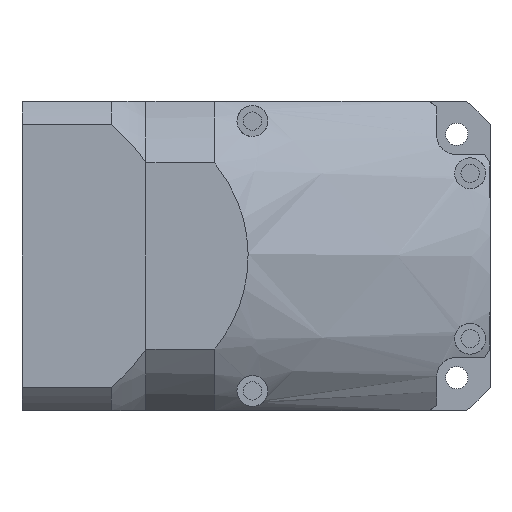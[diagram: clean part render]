
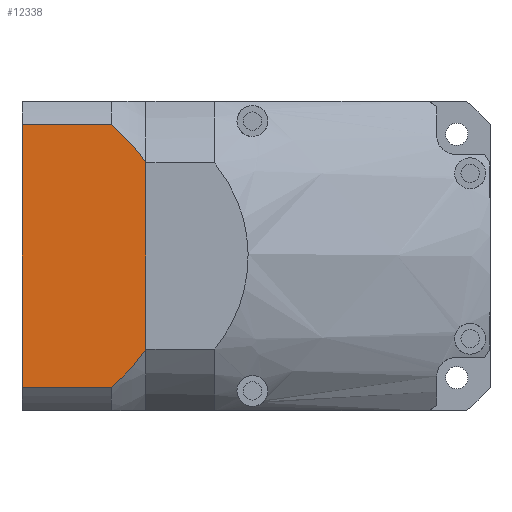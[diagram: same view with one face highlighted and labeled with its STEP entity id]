
A CAD part, front view. The second image highlights one B-rep face of the part: STEP entity #12338.
In plain terms, the highlighted planar face has unit normal (0, -1, 0).
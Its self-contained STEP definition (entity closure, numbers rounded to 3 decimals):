
#347 = LINE ( 'NONE', #10480, #2969 ) ;
#420 = CARTESIAN_POINT ( 'NONE',  ( -38.158, -45., 0. ) ) ;
#426 = CARTESIAN_POINT ( 'NONE',  ( 38.158, -45., -36. ) ) ;
#445 = CARTESIAN_POINT ( 'NONE',  ( 38.158, -45., -10. ) ) ;
#743 = VECTOR ( 'NONE', #4300, 1000. ) ;
#818 = EDGE_CURVE ( 'NONE', #1977, #7348, #347, .T. ) ;
#991 = EDGE_CURVE ( 'NONE', #7982, #4308, #9306, .T. ) ;
#1311 = CARTESIAN_POINT ( 'NONE',  ( -45., -45., -36. ) ) ;
#1575 = CARTESIAN_POINT ( 'NONE',  ( 38.158, -45., 0. ) ) ;
#1598 = VERTEX_POINT ( 'NONE', #9378 ) ;
#1977 = VERTEX_POINT ( 'NONE', #4650 ) ;
#2080 = B_SPLINE_CURVE_WITH_KNOTS ( 'NONE', 3,
 ( #10264, #3349, #5345, #12208, #6330, #445 ),
 .UNSPECIFIED., .F., .F.,
 ( 4, 2, 4 ),
 ( 0., 0.5, 1. ),
 .UNSPECIFIED. ) ;
#2188 = CARTESIAN_POINT ( 'NONE',  ( -38.158, -45., -36. ) ) ;
#2355 = ORIENTED_EDGE ( 'NONE', *, *, #818, .F. ) ;
#2550 = CARTESIAN_POINT ( 'NONE',  ( -45., -45., -36. ) ) ;
#2599 = DIRECTION ( 'NONE',  ( 0., 0., -1. ) ) ;
#2673 = EDGE_CURVE ( 'NONE', #1598, #1977, #10487, .T. ) ;
#2690 = ORIENTED_EDGE ( 'NONE', *, *, #4261, .F. ) ;
#2969 = VECTOR ( 'NONE', #9415, 1000. ) ;
#3347 = CARTESIAN_POINT ( 'NONE',  ( -38.158, -45., -10. ) ) ;
#3349 = CARTESIAN_POINT ( 'NONE',  ( 28.98, -45., -1.311 ) ) ;
#3584 = CARTESIAN_POINT ( 'NONE',  ( 27.042, -45., 0. ) ) ;
#3958 = CARTESIAN_POINT ( 'NONE',  ( 38.158, -45., -10. ) ) ;
#4261 = EDGE_CURVE ( 'NONE', #9259, #4308, #12527, .T. ) ;
#4300 = DIRECTION ( 'NONE',  ( 0., 0., 1. ) ) ;
#4308 = VERTEX_POINT ( 'NONE', #426 ) ;
#4650 = CARTESIAN_POINT ( 'NONE',  ( -27.042, -45., 0. ) ) ;
#5342 = CARTESIAN_POINT ( 'NONE',  ( -30.889, -45., -2.789 ) ) ;
#5345 = CARTESIAN_POINT ( 'NONE',  ( 30.889, -45., -2.789 ) ) ;
#5971 = LINE ( 'NONE', #420, #743 ) ;
#6185 = AXIS2_PLACEMENT_3D ( 'NONE', #2550, #8491, #2599 ) ;
#6329 = CARTESIAN_POINT ( 'NONE',  ( -27.042, -45., 0. ) ) ;
#6330 = CARTESIAN_POINT ( 'NONE',  ( 36.424, -45., -7.956 ) ) ;
#6512 = ORIENTED_EDGE ( 'NONE', *, *, #991, .T. ) ;
#7009 = ORIENTED_EDGE ( 'NONE', *, *, #9744, .F. ) ;
#7018 = DIRECTION ( 'NONE',  ( 1., 0., 0. ) ) ;
#7099 = EDGE_CURVE ( 'NONE', #7982, #1598, #5971, .T. ) ;
#7299 = VECTOR ( 'NONE', #7531, 1000. ) ;
#7348 = VERTEX_POINT ( 'NONE', #3584 ) ;
#7531 = DIRECTION ( 'NONE',  ( 0., 0., -1. ) ) ;
#7982 = VERTEX_POINT ( 'NONE', #2188 ) ;
#8491 = DIRECTION ( 'NONE',  ( 0., -1., 0. ) ) ;
#9259 = VERTEX_POINT ( 'NONE', #3958 ) ;
#9277 = CARTESIAN_POINT ( 'NONE',  ( -36.424, -45., -7.956 ) ) ;
#9306 = LINE ( 'NONE', #1311, #11882 ) ;
#9378 = CARTESIAN_POINT ( 'NONE',  ( -38.158, -45., -10. ) ) ;
#9415 = DIRECTION ( 'NONE',  ( 1., 0., 0. ) ) ;
#9553 = FACE_OUTER_BOUND ( 'NONE', #12045, .T. ) ;
#9744 = EDGE_CURVE ( 'NONE', #7348, #9259, #2080, .T. ) ;
#10264 = CARTESIAN_POINT ( 'NONE',  ( 27.042, -45., 0. ) ) ;
#10480 = CARTESIAN_POINT ( 'NONE',  ( -45., -45., 0. ) ) ;
#10487 = B_SPLINE_CURVE_WITH_KNOTS ( 'NONE', 3,
 ( #3347, #9277, #11215, #5342, #12206, #6329 ),
 .UNSPECIFIED., .F., .F.,
 ( 4, 2, 4 ),
 ( 0., 0.5, 1. ),
 .UNSPECIFIED. ) ;
#10938 = ORIENTED_EDGE ( 'NONE', *, *, #2673, .F. ) ;
#11215 = CARTESIAN_POINT ( 'NONE',  ( -34.611, -45., -6.111 ) ) ;
#11882 = VECTOR ( 'NONE', #7018, 1000. ) ;
#12045 = EDGE_LOOP ( 'NONE', ( #2690, #7009, #2355, #10938, #12655, #6512 ) ) ;
#12206 = CARTESIAN_POINT ( 'NONE',  ( -28.98, -45., -1.311 ) ) ;
#12208 = CARTESIAN_POINT ( 'NONE',  ( 34.611, -45., -6.111 ) ) ;
#12338 = ADVANCED_FACE ( 'NONE', ( #9553 ), #12383, .T. ) ;
#12383 = PLANE ( 'NONE',  #6185 ) ;
#12527 = LINE ( 'NONE', #1575, #7299 ) ;
#12655 = ORIENTED_EDGE ( 'NONE', *, *, #7099, .F. ) ;
